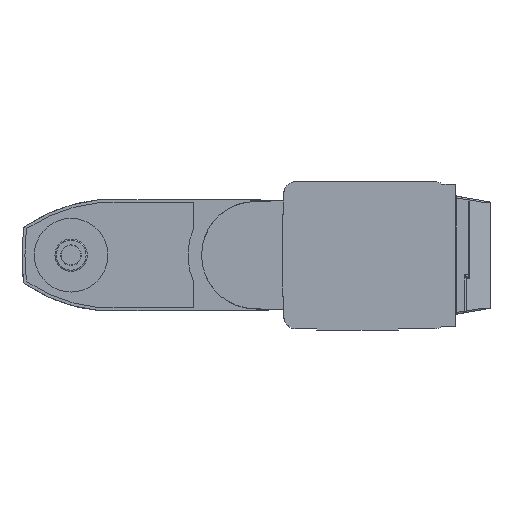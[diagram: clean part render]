
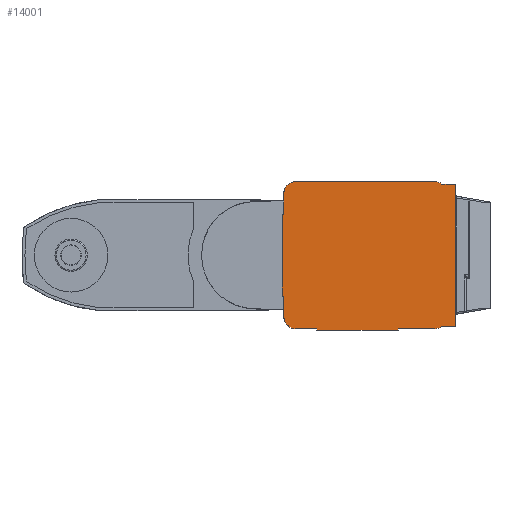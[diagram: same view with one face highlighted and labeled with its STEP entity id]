
A CAD part, front view. The second image highlights one B-rep face of the part: STEP entity #14001.
In plain terms, the highlighted planar face has unit normal (0, -1, 0).
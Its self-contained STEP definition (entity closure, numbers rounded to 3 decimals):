
#1120=DIRECTION('',(0.,0.,1.));
#1121=VECTOR('',#1120,174.);
#1122=CARTESIAN_POINT('',(120.,0.,-87.));
#1123=LINE('',#1122,#1121);
#4223=DIRECTION('',(1.,0.,0.));
#4224=VECTOR('',#4223,44.);
#4225=CARTESIAN_POINT('',(50.,0.,-90.));
#4226=LINE('',#4225,#4224);
#4235=DIRECTION('',(1.,0.,0.));
#4236=VECTOR('',#4235,17.);
#4237=CARTESIAN_POINT('',(103.,0.,87.));
#4238=LINE('',#4237,#4236);
#4239=DIRECTION('',(-1.,0.,0.));
#4240=VECTOR('',#4239,17.);
#4241=CARTESIAN_POINT('',(120.,0.,-87.));
#4242=LINE('',#4241,#4240);
#4243=CARTESIAN_POINT('',(94.,0.,-75.));
#4244=DIRECTION('',(0.,-1.,0.));
#4245=DIRECTION('',(0.,0.,-1.));
#4246=AXIS2_PLACEMENT_3D('',#4243,#4244,#4245);
#4248=DIRECTION('',(0.,0.,1.));
#4249=VECTOR('',#4248,2.);
#4250=CARTESIAN_POINT('',(50.,0.,-92.));
#4251=LINE('',#4250,#4249);
#4252=DIRECTION('',(1.,0.,0.));
#4253=VECTOR('',#4252,100.);
#4254=CARTESIAN_POINT('',(-50.,0.,-92.));
#4255=LINE('',#4254,#4253);
#4256=DIRECTION('',(0.,0.,-1.));
#4257=VECTOR('',#4256,2.);
#4258=CARTESIAN_POINT('',(-50.,0.,-90.));
#4259=LINE('',#4258,#4257);
#4260=DIRECTION('',(-1.,0.,0.));
#4261=VECTOR('',#4260,25.);
#4262=CARTESIAN_POINT('',(-50.,0.,-90.));
#4263=LINE('',#4262,#4261);
#4264=CARTESIAN_POINT('',(-75.,0.,-75.));
#4265=DIRECTION('',(0.,-1.,0.));
#4266=DIRECTION('',(-1.,0.,0.));
#4267=AXIS2_PLACEMENT_3D('',#4264,#4265,#4266);
#4269=DIRECTION('',(0.,0.,1.));
#4270=VECTOR('',#4269,25.);
#4271=CARTESIAN_POINT('',(-90.,0.,-75.));
#4272=LINE('',#4271,#4270);
#4273=DIRECTION('',(1.,0.,0.));
#4274=VECTOR('',#4273,2.);
#4275=CARTESIAN_POINT('',(-92.,0.,-50.));
#4276=LINE('',#4275,#4274);
#4277=DIRECTION('',(0.,0.,-1.));
#4278=VECTOR('',#4277,100.);
#4279=CARTESIAN_POINT('',(-92.,0.,50.));
#4280=LINE('',#4279,#4278);
#4281=DIRECTION('',(-1.,0.,0.));
#4282=VECTOR('',#4281,2.);
#4283=CARTESIAN_POINT('',(-90.,0.,50.));
#4284=LINE('',#4283,#4282);
#4285=DIRECTION('',(0.,0.,1.));
#4286=VECTOR('',#4285,25.);
#4287=CARTESIAN_POINT('',(-90.,0.,50.));
#4288=LINE('',#4287,#4286);
#4289=CARTESIAN_POINT('',(-75.,0.,75.));
#4290=DIRECTION('',(0.,-1.,0.));
#4291=DIRECTION('',(0.,0.,1.));
#4292=AXIS2_PLACEMENT_3D('',#4289,#4290,#4291);
#4294=CARTESIAN_POINT('',(94.,0.,75.));
#4295=DIRECTION('',(0.,-1.,0.));
#4296=DIRECTION('',(0.6,0.,0.8));
#4297=AXIS2_PLACEMENT_3D('',#4294,#4295,#4296);
#4984=DIRECTION('',(-1.,0.,0.));
#4985=VECTOR('',#4984,169.);
#4986=CARTESIAN_POINT('',(94.,0.,90.));
#4987=LINE('',#4986,#4985);
#5740=CARTESIAN_POINT('',(-75.,0.,90.));
#5741=CARTESIAN_POINT('',(-90.,0.,75.));
#5742=VERTEX_POINT('',#5740);
#5743=VERTEX_POINT('',#5741);
#5744=CARTESIAN_POINT('',(-90.,0.,-75.));
#5745=CARTESIAN_POINT('',(-75.,0.,-90.));
#5746=VERTEX_POINT('',#5744);
#5747=VERTEX_POINT('',#5745);
#5802=CARTESIAN_POINT('',(103.,0.,87.));
#5803=CARTESIAN_POINT('',(94.,0.,90.));
#5804=VERTEX_POINT('',#5802);
#5805=VERTEX_POINT('',#5803);
#5806=CARTESIAN_POINT('',(94.,0.,-90.));
#5807=CARTESIAN_POINT('',(103.,0.,-87.));
#5808=VERTEX_POINT('',#5806);
#5809=VERTEX_POINT('',#5807);
#5849=CARTESIAN_POINT('',(-92.,0.,50.));
#5850=CARTESIAN_POINT('',(-92.,0.,-50.));
#5851=VERTEX_POINT('',#5849);
#5852=VERTEX_POINT('',#5850);
#5853=CARTESIAN_POINT('',(-50.,0.,-92.));
#5854=CARTESIAN_POINT('',(50.,0.,-92.));
#5855=VERTEX_POINT('',#5853);
#5856=VERTEX_POINT('',#5854);
#5857=CARTESIAN_POINT('',(50.,0.,-90.));
#5858=VERTEX_POINT('',#5857);
#5898=CARTESIAN_POINT('',(-50.,0.,-90.));
#5899=VERTEX_POINT('',#5898);
#5900=CARTESIAN_POINT('',(-90.,0.,-50.));
#5901=VERTEX_POINT('',#5900);
#5902=CARTESIAN_POINT('',(-90.,0.,50.));
#5903=VERTEX_POINT('',#5902);
#5924=CARTESIAN_POINT('',(120.,0.,87.));
#5925=VERTEX_POINT('',#5924);
#5926=CARTESIAN_POINT('',(120.,0.,-87.));
#5927=VERTEX_POINT('',#5926);
#13965=CARTESIAN_POINT('',(0.,0.,0.));
#13966=DIRECTION('',(0.,1.,0.));
#13967=DIRECTION('',(1.,0.,0.));
#13968=AXIS2_PLACEMENT_3D('',#13965,#13966,#13967);
#13969=PLANE('',#13968);
#13971=ORIENTED_EDGE('',*,*,#13970,.T.);
#13972=ORIENTED_EDGE('',*,*,#7499,.F.);
#13973=ORIENTED_EDGE('',*,*,#6312,.T.);
#13975=ORIENTED_EDGE('',*,*,#13974,.F.);
#13976=ORIENTED_EDGE('',*,*,#13947,.F.);
#13977=ORIENTED_EDGE('',*,*,#13918,.F.);
#13978=ORIENTED_EDGE('',*,*,#13904,.F.);
#13979=ORIENTED_EDGE('',*,*,#13958,.F.);
#13980=ORIENTED_EDGE('',*,*,#13933,.T.);
#13982=ORIENTED_EDGE('',*,*,#13981,.F.);
#13984=ORIENTED_EDGE('',*,*,#13983,.T.);
#13986=ORIENTED_EDGE('',*,*,#13985,.F.);
#13988=ORIENTED_EDGE('',*,*,#13987,.F.);
#13990=ORIENTED_EDGE('',*,*,#13989,.F.);
#13992=ORIENTED_EDGE('',*,*,#13991,.T.);
#13994=ORIENTED_EDGE('',*,*,#13993,.F.);
#13996=ORIENTED_EDGE('',*,*,#13995,.F.);
#13998=ORIENTED_EDGE('',*,*,#13997,.F.);
#13999=EDGE_LOOP('',(#13971,#13972,#13973,#13975,#13976,#13977,#13978,#13979,
#13980,#13982,#13984,#13986,#13988,#13990,#13992,#13994,#13996,#13998));
#14000=FACE_OUTER_BOUND('',#13999,.F.);
#14001=ADVANCED_FACE('',(#14000),#13969,.F.);
#4247=CIRCLE('',#4246,15.);
#4268=CIRCLE('',#4267,15.);
#4293=CIRCLE('',#4292,15.);
#4298=CIRCLE('',#4297,15.);
#6312=EDGE_CURVE('',#5927,#5809,#4242,.T.);
#7499=EDGE_CURVE('',#5927,#5925,#1123,.T.);
#13904=EDGE_CURVE('',#5855,#5856,#4255,.T.);
#13918=EDGE_CURVE('',#5856,#5858,#4251,.T.);
#13933=EDGE_CURVE('',#5899,#5747,#4263,.T.);
#13947=EDGE_CURVE('',#5858,#5808,#4226,.T.);
#13958=EDGE_CURVE('',#5899,#5855,#4259,.T.);
#13970=EDGE_CURVE('',#5804,#5925,#4238,.T.);
#13974=EDGE_CURVE('',#5808,#5809,#4247,.T.);
#13981=EDGE_CURVE('',#5746,#5747,#4268,.T.);
#13983=EDGE_CURVE('',#5746,#5901,#4272,.T.);
#13985=EDGE_CURVE('',#5852,#5901,#4276,.T.);
#13987=EDGE_CURVE('',#5851,#5852,#4280,.T.);
#13989=EDGE_CURVE('',#5903,#5851,#4284,.T.);
#13991=EDGE_CURVE('',#5903,#5743,#4288,.T.);
#13993=EDGE_CURVE('',#5742,#5743,#4293,.T.);
#13995=EDGE_CURVE('',#5805,#5742,#4987,.T.);
#13997=EDGE_CURVE('',#5804,#5805,#4298,.T.);
